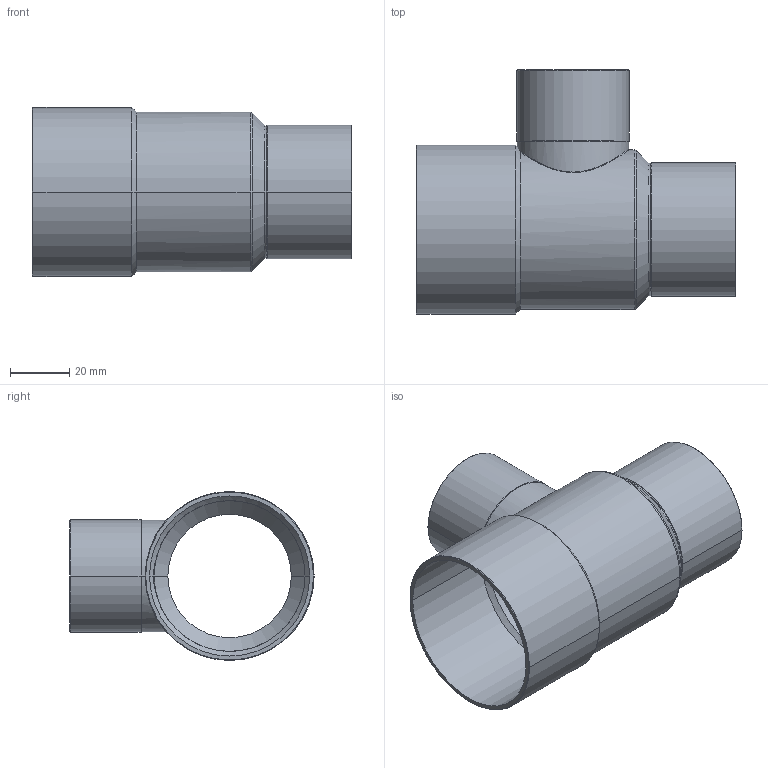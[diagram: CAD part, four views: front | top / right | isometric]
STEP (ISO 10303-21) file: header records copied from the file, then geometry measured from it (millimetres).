
FILE_DESCRIPTION((''),'2;1');
FILE_NAME('G:\Technics\CAD\Bauteile\15130\15130543542.stp','2005-11-03T13:43:18',('boden'),(''),'Autodesk Inventor 8','Autodesk Inventor 8','');
FILE_SCHEMA(('AUTOMOTIVE_DESIGN { 1 0 10303 214 1 1 1 1 }'));
Length unit declared in the file: millimetre
Products named in the file (1): 15130543542
Bounding box: 108 x 82.58 x 57.15 mm (x, y, z)
Volume: 29799.7 mm3; surface area: 40752.1 mm2
Topology: 1 solids, 1 shells, 57 faces, 129 edges, 73 vertices
Faces by surface type: cone 26, cylinder 24, plane 3, torus 2, bspline 2
Entity records: 2103 total; most frequent: CARTESIAN_POINT 793, DIRECTION 288, ORIENTED_EDGE 258, EDGE_CURVE 129, AXIS2_PLACEMENT_3D 119, VERTEX_POINT 73, CIRCLE 63, EDGE_LOOP 60
